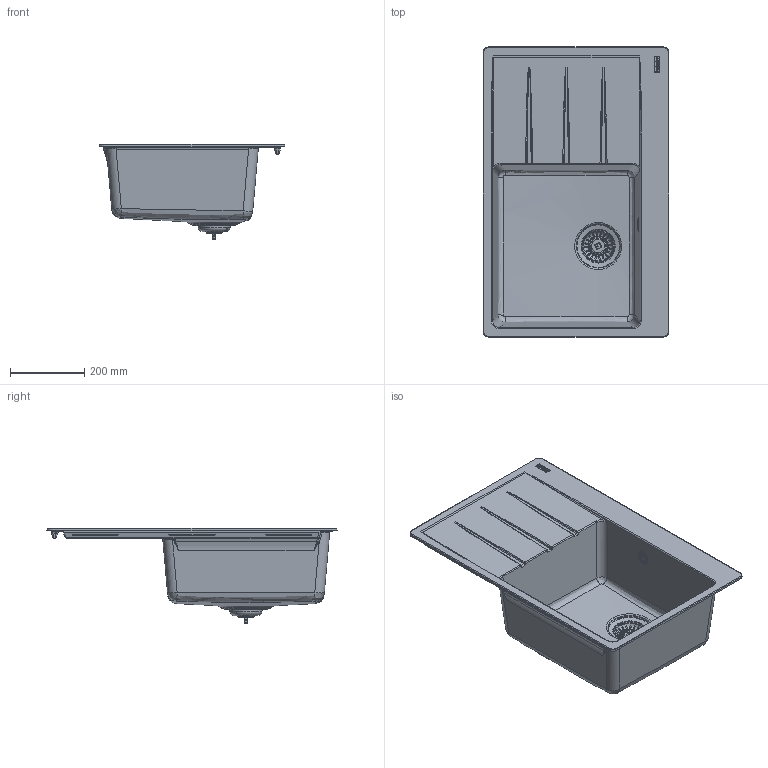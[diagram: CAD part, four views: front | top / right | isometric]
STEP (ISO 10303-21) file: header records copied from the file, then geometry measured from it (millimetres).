
FILE_DESCRIPTION(/* description */ (''),/* implementation_level */ '2;1');
FILE_NAME(/* name */ '3D001_Sinks_Centro_CNG-611-78-LHD',/* time_stamp */ '2024-03-14T10:43:35+01:00',/* author */ (''),/* organization */ (''),/* preprocessor_version */ 'ST-DEVELOPER v19.2',/* originating_system */ 'Rhino 8.4',/* authorisation */ '');
FILE_SCHEMA (('CONFIG_CONTROL_DESIGN'));
Length unit declared in the file: millimetre
Products named in the file (1): Document
Bounding box: 500 x 780 x 256.29 mm (x, y, z)
Volume: 5055782.5 mm3; surface area: 1419968.1 mm2
Topology: 17 solids, 18 shells, 1889 faces, 5016 edges, 3121 vertices
Faces by surface type: bspline 804, plane 571, cylinder 514
Full cylindrical faces by diameter (mm): 3.242 x1, 4 x1, 4.5 x1, 4.7 x1, 4.85 x1, 5.2 x1, 5.25 x1, 5.85 x2, 6 x1, 6.2 x1, 8 x1, 8.25 x1, 12.6 x1, 13.743 x1, 14.3 x1, 17.853 x1, 28 x7, 31 x1, 33 x2, 36 x1, 36.5 x1, 38 x5, 42 x5, 47 x1, 84 x1
Entity records: 103705 total; most frequent: CARTESIAN_POINT 60664, ORIENTED_EDGE 9926, DIRECTION 5005, EDGE_CURVE 4965, VERTEX_POINT 3121, AXIS2_PLACEMENT_3D 3045, B_SPLINE_CURVE_WITH_KNOTS 2826, EDGE_LOOP 1989
